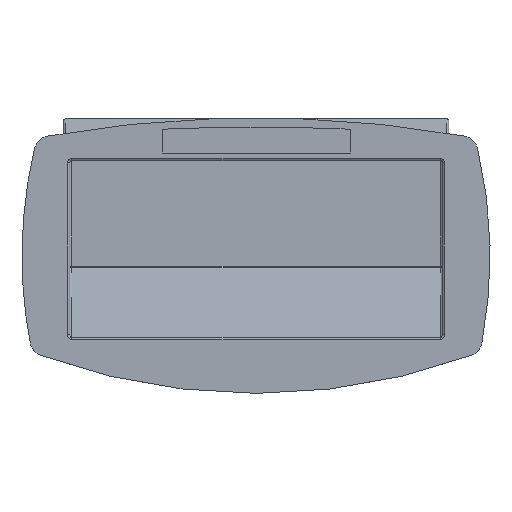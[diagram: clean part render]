
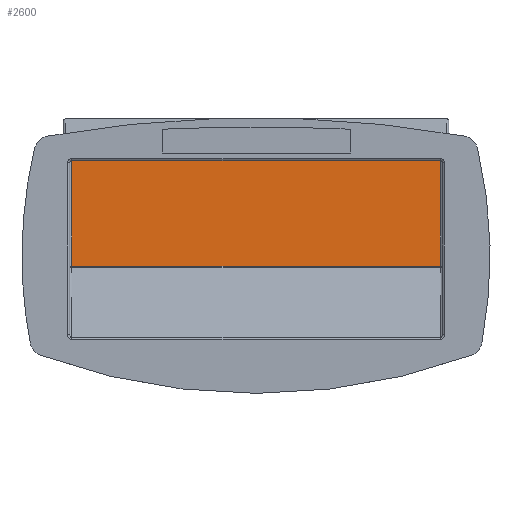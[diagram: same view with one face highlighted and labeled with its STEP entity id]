
A CAD part, top view. The second image highlights one B-rep face of the part: STEP entity #2600.
In plain terms, the highlighted planar face has unit normal (0, 0, 1).
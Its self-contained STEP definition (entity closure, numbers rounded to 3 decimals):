
#111 = CARTESIAN_POINT ( 'NONE',  ( -44.1, -2.704, -24.5 ) ) ;
#171 = VERTEX_POINT ( 'NONE', #3270 ) ;
#270 = CARTESIAN_POINT ( 'NONE',  ( -44.6, 30.8, -24.5 ) ) ;
#415 = DIRECTION ( 'NONE',  ( 0., 1., 0. ) ) ;
#594 = ORIENTED_EDGE ( 'NONE', *, *, #1045, .T. ) ;
#597 = VERTEX_POINT ( 'NONE', #808 ) ;
#607 = CARTESIAN_POINT ( 'NONE',  ( 44.6, -2.433, -24.5 ) ) ;
#691 = VECTOR ( 'NONE', #2546, 1000. ) ;
#808 = CARTESIAN_POINT ( 'NONE',  ( 44.1, -2.433, -24.5 ) ) ;
#949 = DIRECTION ( 'NONE',  ( -1., 0., 0. ) ) ;
#1029 = PLANE ( 'NONE',  #3371 ) ;
#1045 = EDGE_CURVE ( 'NONE', #171, #1182, #1220, .T. ) ;
#1059 = LINE ( 'NONE', #3289, #2499 ) ;
#1090 = DIRECTION ( 'NONE',  ( 0., 0., -1. ) ) ;
#1182 = VERTEX_POINT ( 'NONE', #3846 ) ;
#1220 = LINE ( 'NONE', #270, #3404 ) ;
#1247 = LINE ( 'NONE', #607, #691 ) ;
#1296 = EDGE_CURVE ( 'NONE', #597, #171, #1059, .T. ) ;
#1388 = DIRECTION ( 'NONE',  ( 0., 1., 0. ) ) ;
#1436 = LINE ( 'NONE', #111, #1765 ) ;
#1765 = VECTOR ( 'NONE', #2033, 1000. ) ;
#1838 = EDGE_CURVE ( 'NONE', #1182, #2496, #1436, .T. ) ;
#2033 = DIRECTION ( 'NONE',  ( 0., -1., 0. ) ) ;
#2049 = EDGE_CURVE ( 'NONE', #2496, #597, #1247, .T. ) ;
#2328 = CARTESIAN_POINT ( 'NONE',  ( -44.6, -2.704, -24.5 ) ) ;
#2371 = EDGE_LOOP ( 'NONE', ( #3089, #3617, #594, #2791 ) ) ;
#2496 = VERTEX_POINT ( 'NONE', #3865 ) ;
#2499 = VECTOR ( 'NONE', #415, 1000. ) ;
#2546 = DIRECTION ( 'NONE',  ( 1., 0., 0. ) ) ;
#2600 = ADVANCED_FACE ( 'NONE', ( #3603 ), #1029, .F. ) ;
#2791 = ORIENTED_EDGE ( 'NONE', *, *, #1838, .T. ) ;
#3089 = ORIENTED_EDGE ( 'NONE', *, *, #2049, .T. ) ;
#3270 = CARTESIAN_POINT ( 'NONE',  ( 44.1, 30.8, -24.5 ) ) ;
#3289 = CARTESIAN_POINT ( 'NONE',  ( 44.1, -2.704, -24.5 ) ) ;
#3371 = AXIS2_PLACEMENT_3D ( 'NONE', #2328, #1090, #1388 ) ;
#3404 = VECTOR ( 'NONE', #949, 1000. ) ;
#3603 = FACE_OUTER_BOUND ( 'NONE', #2371, .T. ) ;
#3617 = ORIENTED_EDGE ( 'NONE', *, *, #1296, .T. ) ;
#3846 = CARTESIAN_POINT ( 'NONE',  ( -44.1, 30.8, -24.5 ) ) ;
#3865 = CARTESIAN_POINT ( 'NONE',  ( -44.1, -2.433, -24.5 ) ) ;
